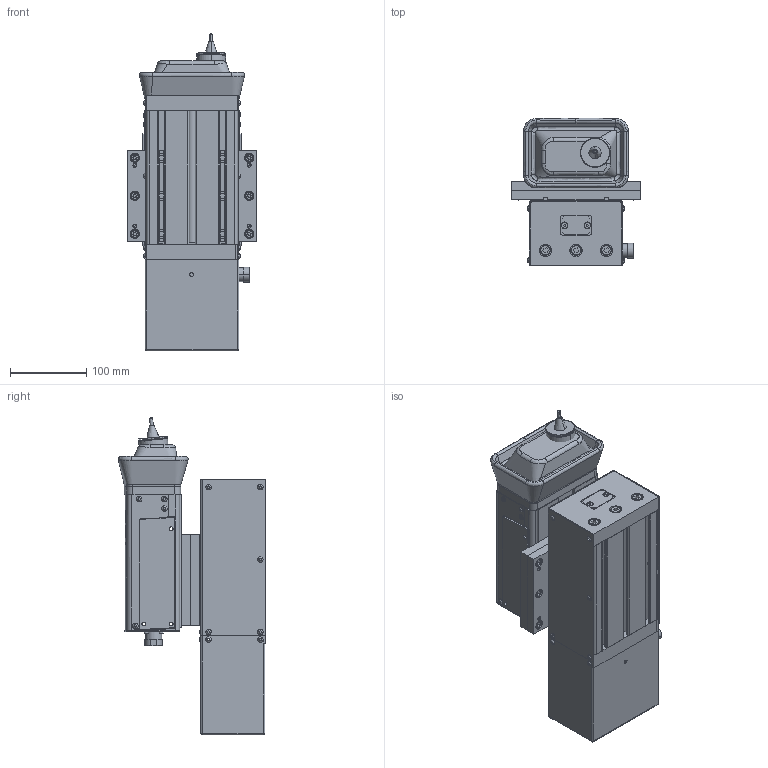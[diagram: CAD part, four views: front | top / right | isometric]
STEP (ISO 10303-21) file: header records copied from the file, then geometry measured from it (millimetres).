
FILE_DESCRIPTION (( 'STEP AP203' ), '1' );
FILE_NAME ('i52 SUR AXE Z 100MM.STEP', '2007-03-30T15:54:10', ( 'UTILISATEUR' ), ( '' ), 'SwSTEP 2.0', 'SolidWorks 2006104', '' );
FILE_SCHEMA (( 'CONFIG_CONTROL_DESIGN' ));
Products named in the file (1): i52 SUR AXE Z 100MM
Bounding box: 170 x 193.4 x 417.05 mm (x, y, z)
Surface area: 522009.3 mm2 (no closed solid volume)
Topology: 0 solids, 82 shells, 1236 faces, 4978 edges, 3773 vertices
Faces by surface type: plane 554, cylinder 429, sphere 81, cone 63, bspline 59, torus 50
Entity records: 152144 total; most frequent: CARTESIAN_POINT 110308, DIRECTION 9454, ORIENTED_EDGE 7285, EDGE_CURVE 4942, VERTEX_POINT 3759, AXIS2_PLACEMENT_3D 3582, CIRCLE 2404, VECTOR 2290
